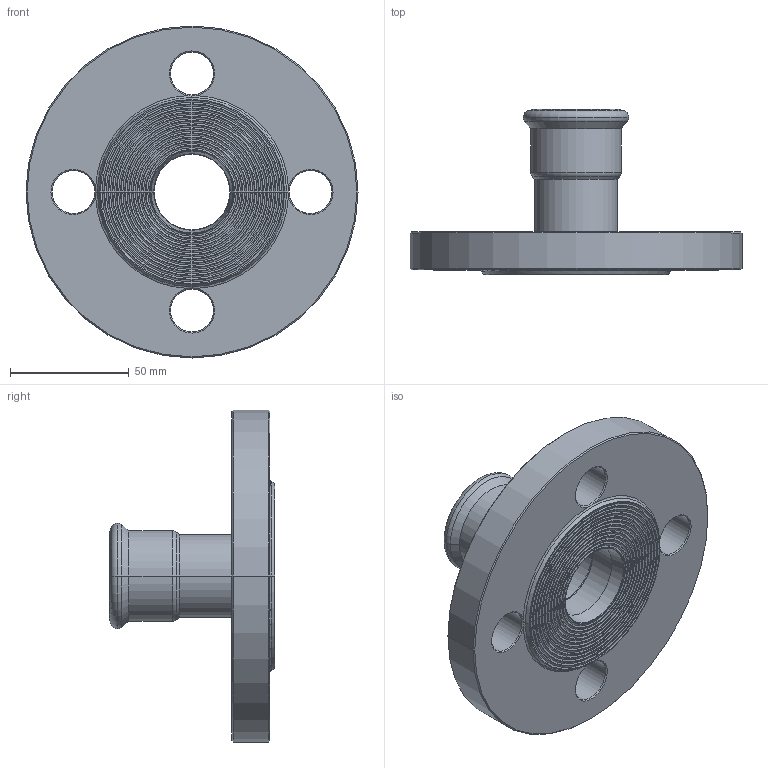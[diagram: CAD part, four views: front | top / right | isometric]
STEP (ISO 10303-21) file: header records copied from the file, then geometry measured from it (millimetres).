
FILE_DESCRIPTION(('CoCreate Modeling STEP Export'),'2;1');
FILE_NAME('C1426 35.stp','2014-11-12T15:27:32',(''),(''),'CoCreate Modeling STEP processor for AP214 (Solid Model)','CoCreate Modeling 17.00A 17-Jun-2010 (C) Parametric Technology GmbH','');
FILE_SCHEMA(('AUTOMOTIVE_DESIGN { 1 0 10303 214 1 1 1 1 }'));
Length unit declared in the file: millimetre
Products named in the file (1): C1426_35
Bounding box: 140 x 69.7 x 140 mm (x, y, z)
Volume: 234524.8 mm3; surface area: 51995.5 mm2
Topology: 1 solids, 1 shells, 150 faces, 319 edges, 183 vertices
Faces by surface type: torus 64, cone 42, cylinder 26, plane 18
Entity records: 3447 total; most frequent: CARTESIAN_POINT 712, ORIENTED_EDGE 638, DIRECTION 498, EDGE_CURVE 319, AXIS2_PLACEMENT_3D 215, VERTEX_POINT 183, EDGE_LOOP 172, CIRCLE 155
